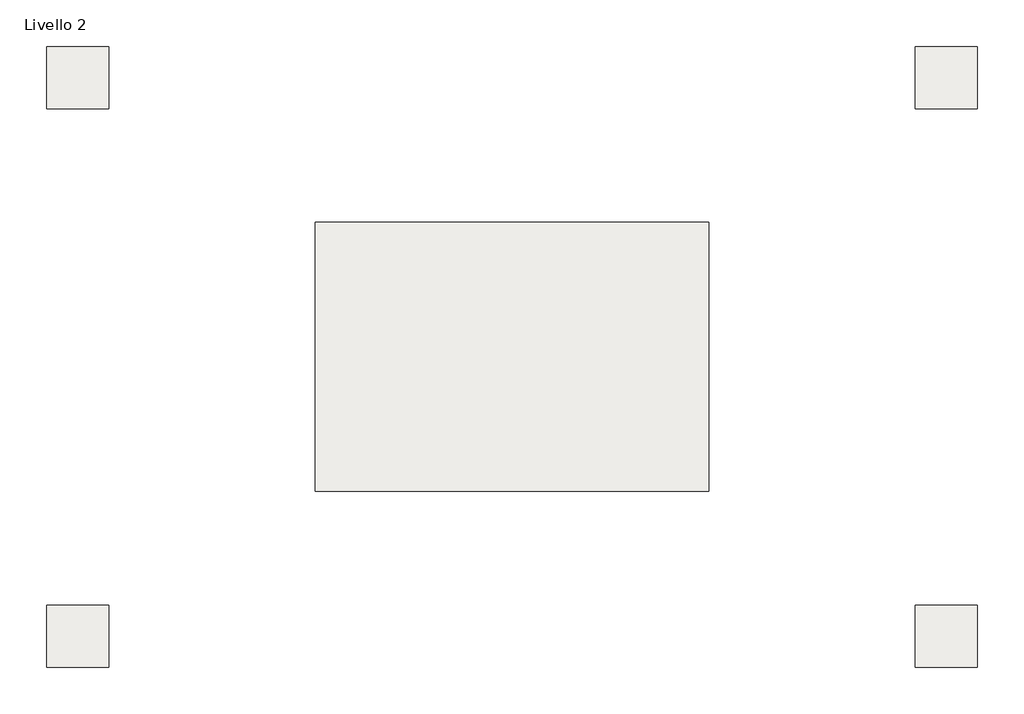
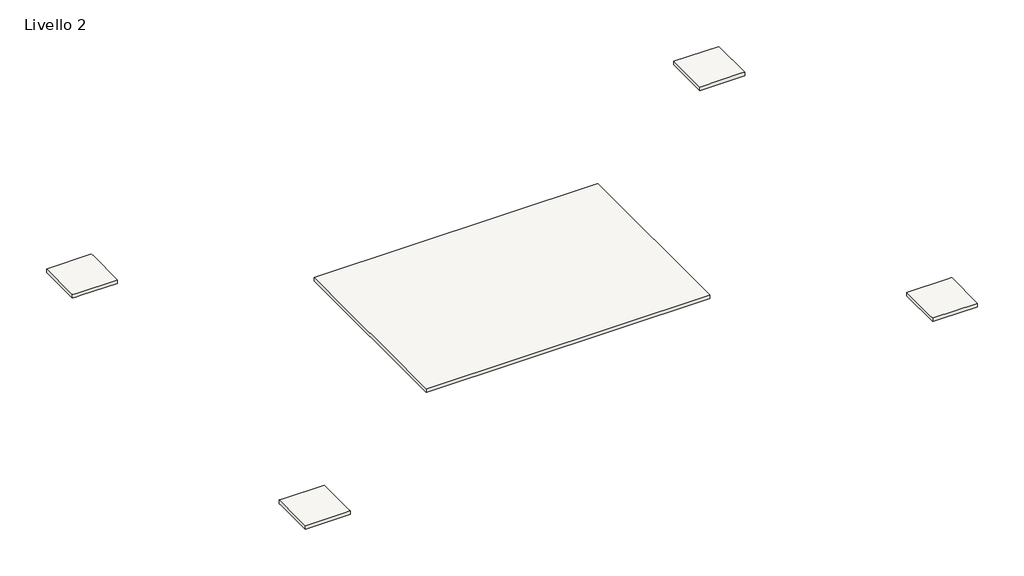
# One storey: 5 slabs.
"""IFC4 building model written with IfcOpenShell, lengths in millimetres."""

from ifc_helpers import new_model, si_unit, frame, origin, place, context, project, spatial, polyline, outline, extrude, faceted_brep, element, save

model = new_model("IFC4")

# Units and contexts
model_context = context("Model", 3, world=origin())
ifc_project = project(units=[si_unit("LENGTHUNIT", "METRE", prefix="MILLI")], contexts=[model_context])

# Site, building, storey
site = spatial("IfcSite", under=ifc_project)
building = spatial("IfcBuilding", under=site)
storey = spatial("IfcBuildingStorey", under=building, Name="Livello 2", Elevation=3500.0)

# Slabs
placement = place(None, origin())
element("IfcSlab", 1, ObjectType="Generico 50 Copertura", at=placement, inside=storey, context=model_context, shape_type="SweptSolid", body=[
    extrude(outline(polyline([(10173.8446289, 7669.1271843), (13973.8446289, 7669.1271843), (13973.8446289, 5069.1271843), (10173.8446289, 5069.1271843), (10173.8446289, 7669.1271843)])), frame((0.0, 0.0, 3450.0), z_axis=(0.0, 0.0, 1.0), x_axis=(1.0, 0.0, 0.0)), (0.0, 0.0, 1.0), 50.0),
])
element("IfcSlab", 2, ObjectType="Generico 50 Copertura", at=placement, inside=storey, context=model_context, shape_type="Brep", body=[
    faceted_brep([(7573.8446289, 9369.1271843, 3450.0), (7673.8446289, 9369.1271843, 3450.0), (8073.8446289, 9369.1271843, 3450.0), (8173.8446289, 9369.1271843, 3450.0), (8173.8446289, 8869.1271843, 3450.0), (8173.8446289, 8769.1271843, 3450.0), (7673.8446289, 8769.1271843, 3450.0), (7623.8446289, 8769.1271843, 3450.0), (7573.8446289, 8769.1271843, 3450.0), (7573.8446289, 8819.1271843, 3450.0), (7573.8446289, 9369.1271843, 3500.0), (7573.8446289, 8769.1271843, 3500.0), (7623.8446289, 8769.1271843, 3500.0), (8173.8446289, 8769.1271843, 3500.0), (8173.8446289, 9319.1271843, 3500.0), (8173.8446289, 9369.1271843, 3500.0)], [[[0, 1, 2, 3, 4, 5, 6, 7, 8, 9]], [[10, 11, 12, 13, 14, 15]], [[3, 2, 1, 0, 10, 15]], [[5, 4, 3, 15, 14, 13]], [[8, 7, 6, 5, 13, 12, 11]], [[0, 9, 8, 11, 10]]]),
])
element("IfcSlab", 3, ObjectType="Generico 50 Copertura", at=placement, inside=storey, context=model_context, shape_type="Brep", body=[
    faceted_brep([(15973.8446289, 9369.1271843, 3450.0), (16073.8446289, 9369.1271843, 3450.0), (16473.8446289, 9369.1271843, 3450.0), (16573.8446289, 9369.1271843, 3450.0), (16573.8446289, 8869.1271843, 3450.0), (16573.8446289, 8769.1271843, 3450.0), (16073.8446289, 8769.1271843, 3450.0), (15973.8446289, 8769.1271843, 3450.0), (15973.8446289, 9369.1271843, 3500.0), (15973.8446289, 9319.1271843, 3500.0), (15973.8446289, 8769.1271843, 3500.0), (16523.8446289, 8769.1271843, 3500.0), (16573.8446289, 8769.1271843, 3500.0), (16573.8446289, 9369.1271843, 3500.0)], [[[0, 1, 2, 3, 4, 5, 6, 7]], [[8, 9, 10, 11, 12, 13]], [[3, 2, 1, 0, 8, 13]], [[5, 4, 3, 13, 12]], [[7, 6, 5, 12, 11, 10]], [[0, 7, 10, 9, 8]]]),
])
element("IfcSlab", 4, ObjectType="Generico 50 Copertura", at=placement, inside=storey, context=model_context, shape_type="Brep", body=[
    faceted_brep([(7573.8446289, 3969.1271843, 3450.0), (7623.8446289, 3969.1271843, 3450.0), (7673.8446289, 3969.1271843, 3450.0), (8073.8446289, 3969.1271843, 3450.0), (8173.8446289, 3969.1271843, 3450.0), (8173.8446289, 3469.1271843, 3450.0), (8173.8446289, 3369.1271843, 3450.0), (7673.8446289, 3369.1271843, 3450.0), (7573.8446289, 3369.1271843, 3450.0), (7573.8446289, 3919.1271843, 3450.0), (7573.8446289, 3969.1271843, 3500.0), (7573.8446289, 3369.1271843, 3500.0), (8173.8446289, 3369.1271843, 3500.0), (8173.8446289, 3419.1271843, 3500.0), (8173.8446289, 3969.1271843, 3500.0), (7623.8446289, 3969.1271843, 3500.0)], [[[0, 1, 2, 3, 4, 5, 6, 7, 8, 9]], [[10, 11, 12, 13, 14, 15]], [[4, 3, 2, 1, 0, 10, 15, 14]], [[6, 5, 4, 14, 13, 12]], [[8, 7, 6, 12, 11]], [[0, 9, 8, 11, 10]]]),
])
element("IfcSlab", 5, ObjectType="Generico 50 Copertura", at=placement, inside=storey, context=model_context, shape_type="Brep", body=[
    faceted_brep([(15973.8446289, 3969.1271843, 3450.0), (16073.8446289, 3969.1271843, 3450.0), (16473.8446289, 3969.1271843, 3450.0), (16523.8446289, 3969.1271843, 3450.0), (16573.8446289, 3969.1271843, 3450.0), (16573.8446289, 3919.1271843, 3450.0), (16573.8446289, 3469.1271843, 3450.0), (16573.8446289, 3369.1271843, 3450.0), (16073.8446289, 3369.1271843, 3450.0), (15973.8446289, 3369.1271843, 3450.0), (15973.8446289, 3969.1271843, 3500.0), (15973.8446289, 3419.1271843, 3500.0), (15973.8446289, 3369.1271843, 3500.0), (16573.8446289, 3369.1271843, 3500.0), (16573.8446289, 3969.1271843, 3500.0), (16523.8446289, 3969.1271843, 3500.0)], [[[0, 1, 2, 3, 4, 5, 6, 7, 8, 9]], [[10, 11, 12, 13, 14, 15]], [[4, 3, 2, 1, 0, 10, 15, 14]], [[7, 6, 5, 4, 14, 13]], [[9, 8, 7, 13, 12]], [[0, 9, 12, 11, 10]]]),
])

save(model, "model.ifc")
